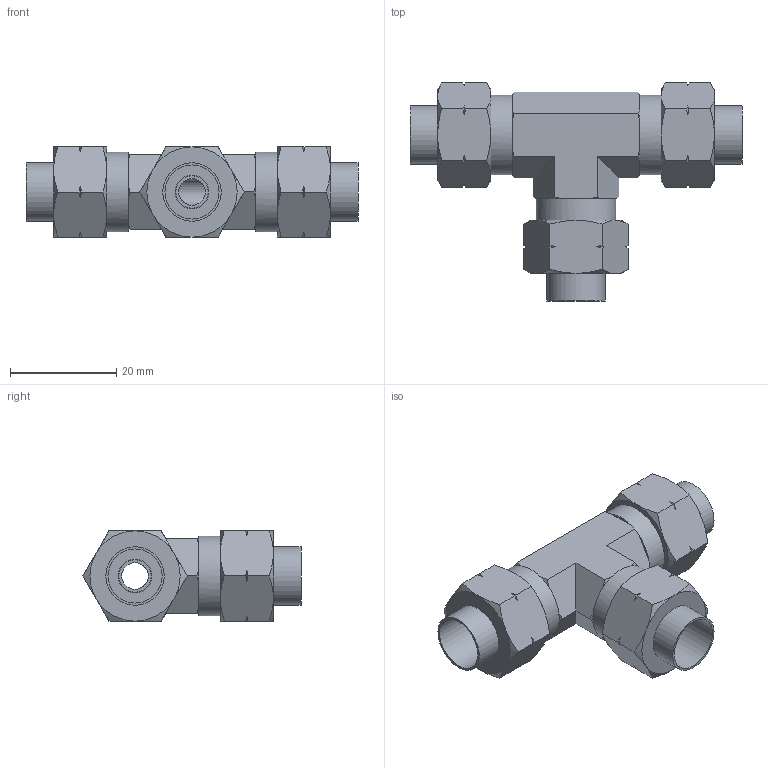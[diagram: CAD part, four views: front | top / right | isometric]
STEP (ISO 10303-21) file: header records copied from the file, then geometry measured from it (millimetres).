
FILE_DESCRIPTION((''),'2;1');
FILE_NAME('D:\INVENTOR\[New Inventor]\CDC Products 3D Ass''y\Two-Touch Fittings\Metric\CUT\CUT10-6.stp','2009-02-25T08:42:56',('Microsoft'),(''),'Autodesk Inventor 2008','Autodesk Inventor 2008','');
FILE_SCHEMA(('AUTOMOTIVE_DESIGN { 1 0 10303 214 1 1 1 1 }'));
Length unit declared in the file: millimetre
Products named in the file (1): CUT10-6
Bounding box: 62.54 x 41.09 x 17 mm (x, y, z)
Volume: 11519 mm3; surface area: 8498.1 mm2
Topology: 1 solids, 1 shells, 170 faces, 393 edges, 236 vertices
Faces by surface type: cone 84, plane 63, cylinder 14, bspline 6, torus 3
Full cylindrical faces by diameter (mm): 5 x2, 6.3 x3, 10.2 x3, 11 x3, 15 x3
Entity records: 4547 total; most frequent: CARTESIAN_POINT 1238, ORIENTED_EDGE 744, DIRECTION 641, EDGE_CURVE 372, AXIS2_PLACEMENT_3D 284, VERTEX_POINT 233, EDGE_LOOP 203, FACE_OUTER_BOUND 170
